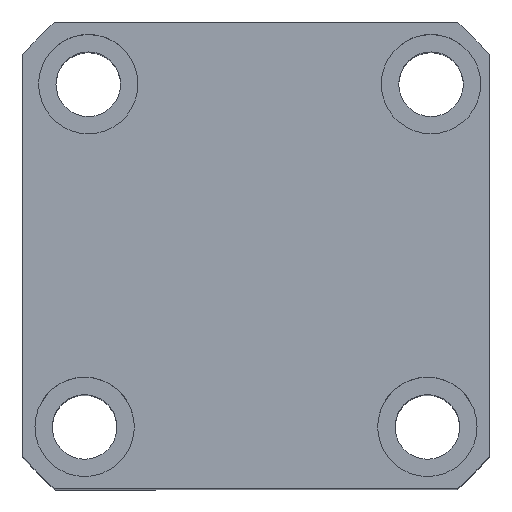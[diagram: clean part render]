
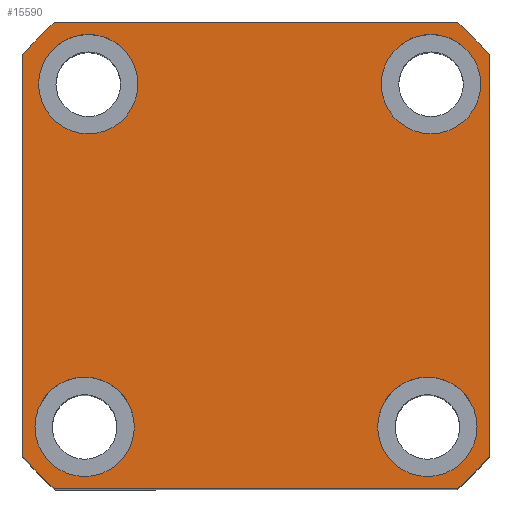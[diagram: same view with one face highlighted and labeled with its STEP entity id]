
A CAD part, top view. The second image highlights one B-rep face of the part: STEP entity #15590.
In plain terms, the highlighted planar face has unit normal (0, 0, 1) as drawn and (0, 0, -1) by its records, which use the part's own axes.
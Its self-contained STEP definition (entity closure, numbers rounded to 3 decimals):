
#55 = VERTEX_POINT ( 'NONE', #13050 ) ;
#111 = CARTESIAN_POINT ( 'NONE',  ( -47., 47., 0. ) ) ;
#271 = AXIS2_PLACEMENT_3D ( 'NONE', #13585, #4025, #13650 ) ;
#518 = ORIENTED_EDGE ( 'NONE', *, *, #11087, .F. ) ;
#689 = EDGE_CURVE ( 'NONE', #2673, #1314, #1759, .T. ) ;
#829 = EDGE_LOOP ( 'NONE', ( #7684, #10863, #7738, #15671, #3938, #10858, #518, #8718 ) ) ;
#933 = ORIENTED_EDGE ( 'NONE', *, *, #16699, .F. ) ;
#1040 = DIRECTION ( 'NONE',  ( -1., 0., 0. ) ) ;
#1160 = CARTESIAN_POINT ( 'NONE',  ( 47., 47., 0. ) ) ;
#1274 = CARTESIAN_POINT ( 'NONE',  ( -34.5, 34.5, 0. ) ) ;
#1287 = CIRCLE ( 'NONE', #8753, 10. ) ;
#1314 = VERTEX_POINT ( 'NONE', #11320 ) ;
#1339 = FACE_BOUND ( 'NONE', #7669, .T. ) ;
#1671 = DIRECTION ( 'NONE',  ( 0., 0., 1. ) ) ;
#1759 = CIRCLE ( 'NONE', #13490, 10. ) ;
#1783 = CIRCLE ( 'NONE', #8399, 10. ) ;
#1857 = CARTESIAN_POINT ( 'NONE',  ( -33.77, -34.5, 0. ) ) ;
#1977 = AXIS2_PLACEMENT_3D ( 'NONE', #12398, #4183, #13799 ) ;
#1987 = EDGE_CURVE ( 'NONE', #7133, #55, #17216, .T. ) ;
#2017 = EDGE_CURVE ( 'NONE', #15539, #3957, #9465, .T. ) ;
#2366 = AXIS2_PLACEMENT_3D ( 'NONE', #14998, #13741, #13681 ) ;
#2396 = DIRECTION ( 'NONE',  ( 0., 0., -1. ) ) ;
#2673 = VERTEX_POINT ( 'NONE', #12145 ) ;
#2676 = DIRECTION ( 'NONE',  ( -1., 0., 0. ) ) ;
#2990 = CIRCLE ( 'NONE', #5753, 62. ) ;
#3229 = DIRECTION ( 'NONE',  ( -1., 0., 0. ) ) ;
#3449 = CARTESIAN_POINT ( 'NONE',  ( -40.435, 47., 0. ) ) ;
#3487 = VECTOR ( 'NONE', #8341, 1000. ) ;
#3569 = CARTESIAN_POINT ( 'NONE',  ( 44.5, 34.5, 0. ) ) ;
#3609 = VERTEX_POINT ( 'NONE', #7393 ) ;
#3841 = EDGE_CURVE ( 'NONE', #15176, #3609, #1287, .T. ) ;
#3938 = ORIENTED_EDGE ( 'NONE', *, *, #9587, .F. ) ;
#3957 = VERTEX_POINT ( 'NONE', #9328 ) ;
#4025 = DIRECTION ( 'NONE',  ( 0., 0., 1. ) ) ;
#4094 = LINE ( 'NONE', #9755, #10959 ) ;
#4183 = DIRECTION ( 'NONE',  ( 0., 0., 1. ) ) ;
#4489 = DIRECTION ( 'NONE',  ( 1., 0., 0. ) ) ;
#4873 = AXIS2_PLACEMENT_3D ( 'NONE', #13848, #5624, #15225 ) ;
#4991 = VECTOR ( 'NONE', #9382, 1000. ) ;
#5012 = CARTESIAN_POINT ( 'NONE',  ( -44.5, 34.5, 0. ) ) ;
#5218 = EDGE_CURVE ( 'NONE', #1314, #2673, #13768, .T. ) ;
#5511 = DIRECTION ( 'NONE',  ( 1., 0., 0. ) ) ;
#5624 = DIRECTION ( 'NONE',  ( 0., 0., -1. ) ) ;
#5696 = DIRECTION ( 'NONE',  ( 0., 0., -1. ) ) ;
#5753 = AXIS2_PLACEMENT_3D ( 'NONE', #6542, #16171, #7917 ) ;
#6009 = AXIS2_PLACEMENT_3D ( 'NONE', #6756, #12211, #5511 ) ;
#6256 = EDGE_CURVE ( 'NONE', #13825, #7828, #9872, .T. ) ;
#6373 = AXIS2_PLACEMENT_3D ( 'NONE', #1857, #11430, #3229 ) ;
#6470 = ORIENTED_EDGE ( 'NONE', *, *, #11294, .F. ) ;
#6542 = CARTESIAN_POINT ( 'NONE',  ( 0., 0., 0. ) ) ;
#6688 = VERTEX_POINT ( 'NONE', #16647 ) ;
#6756 = CARTESIAN_POINT ( 'NONE',  ( 0., 0., 0. ) ) ;
#7117 = LINE ( 'NONE', #111, #3487 ) ;
#7133 = VERTEX_POINT ( 'NONE', #11507 ) ;
#7210 = EDGE_CURVE ( 'NONE', #9016, #15195, #16113, .T. ) ;
#7250 = VERTEX_POINT ( 'NONE', #12446 ) ;
#7393 = CARTESIAN_POINT ( 'NONE',  ( 24.5, 34.5, 0. ) ) ;
#7551 = CARTESIAN_POINT ( 'NONE',  ( 40.435, -47., 0. ) ) ;
#7669 = EDGE_LOOP ( 'NONE', ( #933, #8691 ) ) ;
#7684 = ORIENTED_EDGE ( 'NONE', *, *, #2017, .F. ) ;
#7738 = ORIENTED_EDGE ( 'NONE', *, *, #6256, .F. ) ;
#7828 = VERTEX_POINT ( 'NONE', #16455 ) ;
#7917 = DIRECTION ( 'NONE',  ( 1., 0., 0. ) ) ;
#8068 = EDGE_CURVE ( 'NONE', #13432, #13825, #16751, .T. ) ;
#8191 = FACE_OUTER_BOUND ( 'NONE', #829, .T. ) ;
#8341 = DIRECTION ( 'NONE',  ( -1., 0., 0. ) ) ;
#8399 = AXIS2_PLACEMENT_3D ( 'NONE', #13918, #5696, #15295 ) ;
#8452 = CIRCLE ( 'NONE', #6373, 10. ) ;
#8626 = CIRCLE ( 'NONE', #15353, 10. ) ;
#8691 = ORIENTED_EDGE ( 'NONE', *, *, #1987, .F. ) ;
#8718 = ORIENTED_EDGE ( 'NONE', *, *, #12287, .F. ) ;
#8753 = AXIS2_PLACEMENT_3D ( 'NONE', #10581, #2396, #11953 ) ;
#8992 = VECTOR ( 'NONE', #4489, 1000. ) ;
#9016 = VERTEX_POINT ( 'NONE', #16545 ) ;
#9262 = DIRECTION ( 'NONE',  ( 0., 0., -1. ) ) ;
#9328 = CARTESIAN_POINT ( 'NONE',  ( 40.435, 47., 0. ) ) ;
#9382 = DIRECTION ( 'NONE',  ( 0., 1., 0. ) ) ;
#9465 = CIRCLE ( 'NONE', #6009, 62. ) ;
#9583 = ORIENTED_EDGE ( 'NONE', *, *, #5218, .F. ) ;
#9587 = EDGE_CURVE ( 'NONE', #7250, #13432, #2990, .T. ) ;
#9755 = CARTESIAN_POINT ( 'NONE',  ( -47., 47., 0. ) ) ;
#9872 = CIRCLE ( 'NONE', #11069, 62. ) ;
#9873 = CARTESIAN_POINT ( 'NONE',  ( 0., 0., 0. ) ) ;
#9886 = CARTESIAN_POINT ( 'NONE',  ( -47., -47., 0. ) ) ;
#10581 = CARTESIAN_POINT ( 'NONE',  ( 34.5, 34.5, 0. ) ) ;
#10696 = CARTESIAN_POINT ( 'NONE',  ( -40.435, -47., 0. ) ) ;
#10851 = ORIENTED_EDGE ( 'NONE', *, *, #15572, .F. ) ;
#10858 = ORIENTED_EDGE ( 'NONE', *, *, #14761, .F. ) ;
#10862 = DIRECTION ( 'NONE',  ( 0., 0., -1. ) ) ;
#10863 = ORIENTED_EDGE ( 'NONE', *, *, #15516, .F. ) ;
#10919 = EDGE_LOOP ( 'NONE', ( #6470, #15631 ) ) ;
#10959 = VECTOR ( 'NONE', #13966, 1000. ) ;
#11069 = AXIS2_PLACEMENT_3D ( 'NONE', #9873, #1671, #11252 ) ;
#11087 = EDGE_CURVE ( 'NONE', #14957, #6688, #13170, .T. ) ;
#11119 = DIRECTION ( 'NONE',  ( -1., 0., 0. ) ) ;
#11252 = DIRECTION ( 'NONE',  ( 1., 0., 0. ) ) ;
#11287 = DIRECTION ( 'NONE',  ( 0., 0., -1. ) ) ;
#11294 = EDGE_CURVE ( 'NONE', #3609, #15176, #1783, .T. ) ;
#11320 = CARTESIAN_POINT ( 'NONE',  ( 25.23, -34.5, 0. ) ) ;
#11343 = CARTESIAN_POINT ( 'NONE',  ( 35.23, -34.5, 0. ) ) ;
#11430 = DIRECTION ( 'NONE',  ( 0., 0., -1. ) ) ;
#11507 = CARTESIAN_POINT ( 'NONE',  ( -23.77, -34.5, 0. ) ) ;
#11846 = FACE_BOUND ( 'NONE', #12316, .T. ) ;
#11953 = DIRECTION ( 'NONE',  ( -1., 0., 0. ) ) ;
#12145 = CARTESIAN_POINT ( 'NONE',  ( 45.23, -34.5, 0. ) ) ;
#12211 = DIRECTION ( 'NONE',  ( 0., 0., 1. ) ) ;
#12218 = EDGE_LOOP ( 'NONE', ( #9583, #16385 ) ) ;
#12239 = PLANE ( 'NONE',  #271 ) ;
#12287 = EDGE_CURVE ( 'NONE', #3957, #14957, #7117, .T. ) ;
#12316 = EDGE_LOOP ( 'NONE', ( #10851, #16484 ) ) ;
#12398 = CARTESIAN_POINT ( 'NONE',  ( 0., 0., 0. ) ) ;
#12446 = CARTESIAN_POINT ( 'NONE',  ( -47., -40.435, 0. ) ) ;
#13050 = CARTESIAN_POINT ( 'NONE',  ( -43.77, -34.5, 0. ) ) ;
#13170 = CIRCLE ( 'NONE', #1977, 62. ) ;
#13432 = VERTEX_POINT ( 'NONE', #10696 ) ;
#13490 = AXIS2_PLACEMENT_3D ( 'NONE', #11343, #11287, #11119 ) ;
#13585 = CARTESIAN_POINT ( 'NONE',  ( 0., 0., 0. ) ) ;
#13650 = DIRECTION ( 'NONE',  ( 1., 0., 0. ) ) ;
#13681 = DIRECTION ( 'NONE',  ( -1., 0., 0. ) ) ;
#13741 = DIRECTION ( 'NONE',  ( 0., 0., -1. ) ) ;
#13768 = CIRCLE ( 'NONE', #16369, 10. ) ;
#13799 = DIRECTION ( 'NONE',  ( 1., 0., 0. ) ) ;
#13825 = VERTEX_POINT ( 'NONE', #7551 ) ;
#13848 = CARTESIAN_POINT ( 'NONE',  ( -34.5, 34.5, 0. ) ) ;
#13918 = CARTESIAN_POINT ( 'NONE',  ( 34.5, 34.5, 0. ) ) ;
#13966 = DIRECTION ( 'NONE',  ( 0., -1., 0. ) ) ;
#14761 = EDGE_CURVE ( 'NONE', #6688, #7250, #4094, .T. ) ;
#14957 = VERTEX_POINT ( 'NONE', #3449 ) ;
#14998 = CARTESIAN_POINT ( 'NONE',  ( -33.77, -34.5, 0. ) ) ;
#15176 = VERTEX_POINT ( 'NONE', #3569 ) ;
#15195 = VERTEX_POINT ( 'NONE', #5012 ) ;
#15225 = DIRECTION ( 'NONE',  ( -1., 0., 0. ) ) ;
#15295 = DIRECTION ( 'NONE',  ( -1., 0., 0. ) ) ;
#15353 = AXIS2_PLACEMENT_3D ( 'NONE', #1274, #10862, #2676 ) ;
#15515 = FACE_BOUND ( 'NONE', #10919, .T. ) ;
#15516 = EDGE_CURVE ( 'NONE', #7828, #15539, #15697, .T. ) ;
#15539 = VERTEX_POINT ( 'NONE', #16346 ) ;
#15572 = EDGE_CURVE ( 'NONE', #15195, #9016, #8626, .T. ) ;
#15590 = ADVANCED_FACE ( 'NONE', ( #1339, #16140, #15515, #11846, #8191 ), #12239, .F. ) ;
#15631 = ORIENTED_EDGE ( 'NONE', *, *, #3841, .F. ) ;
#15671 = ORIENTED_EDGE ( 'NONE', *, *, #8068, .F. ) ;
#15697 = LINE ( 'NONE', #1160, #4991 ) ;
#16113 = CIRCLE ( 'NONE', #4873, 10. ) ;
#16140 = FACE_BOUND ( 'NONE', #12218, .T. ) ;
#16171 = DIRECTION ( 'NONE',  ( 0., 0., 1. ) ) ;
#16346 = CARTESIAN_POINT ( 'NONE',  ( 47., 40.435, 0. ) ) ;
#16369 = AXIS2_PLACEMENT_3D ( 'NONE', #17504, #9262, #1040 ) ;
#16385 = ORIENTED_EDGE ( 'NONE', *, *, #689, .F. ) ;
#16455 = CARTESIAN_POINT ( 'NONE',  ( 47., -40.435, 0. ) ) ;
#16484 = ORIENTED_EDGE ( 'NONE', *, *, #7210, .F. ) ;
#16545 = CARTESIAN_POINT ( 'NONE',  ( -24.5, 34.5, 0. ) ) ;
#16647 = CARTESIAN_POINT ( 'NONE',  ( -47., 40.435, 0. ) ) ;
#16699 = EDGE_CURVE ( 'NONE', #55, #7133, #8452, .T. ) ;
#16751 = LINE ( 'NONE', #9886, #8992 ) ;
#17216 = CIRCLE ( 'NONE', #2366, 10. ) ;
#17504 = CARTESIAN_POINT ( 'NONE',  ( 35.23, -34.5, 0. ) ) ;
